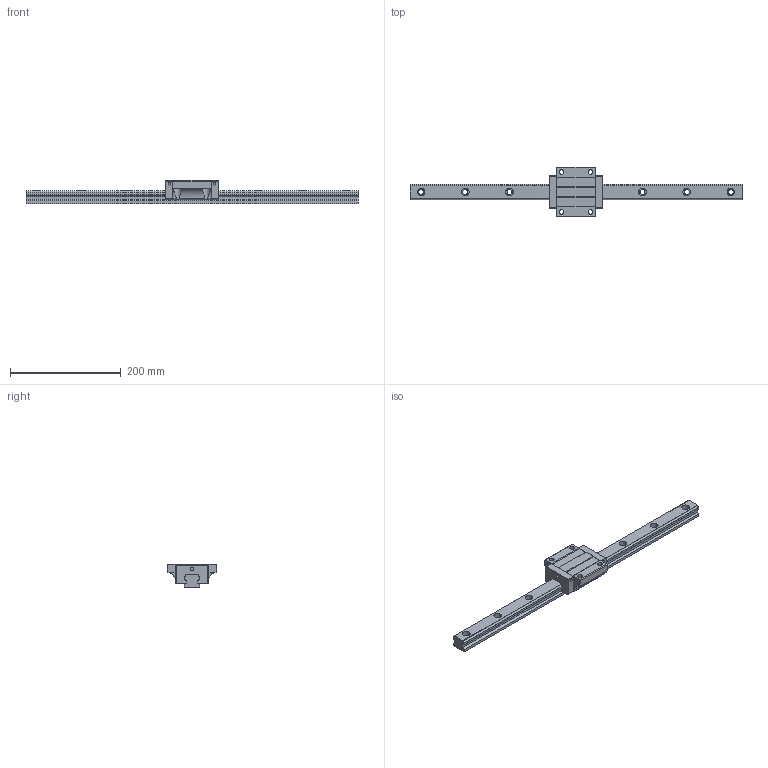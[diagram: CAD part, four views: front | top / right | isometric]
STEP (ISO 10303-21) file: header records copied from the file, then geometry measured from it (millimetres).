
FILE_DESCRIPTION (( 'STEP AP203' ), '1' );
FILE_NAME ('TRH30FN-XN.STEP', '2024-05-09T07:45:11', ( '' ), ( '' ), 'SwSTEP 2.0', 'SolidWorks 2022', '' );
FILE_SCHEMA (( 'CONFIG_CONTROL_DESIGN' ));
Length unit declared in the file: millimetre
Products named in the file (1): TRH30FN-XN
Bounding box: 600 x 90 x 42 mm (x, y, z)
Volume: 505218.3 mm3; surface area: 101681.4 mm2
Topology: 2 solids, 2 shells, 214 faces, 580 edges, 380 vertices
Faces by surface type: cylinder 116, plane 94, sphere 4
Entity records: 7596 total; most frequent: CARTESIAN_POINT 1958, DIRECTION 1184, ORIENTED_EDGE 1152, EDGE_CURVE 576, AXIS2_PLACEMENT_3D 421, VERTEX_POINT 380, LINE 342, VECTOR 342
